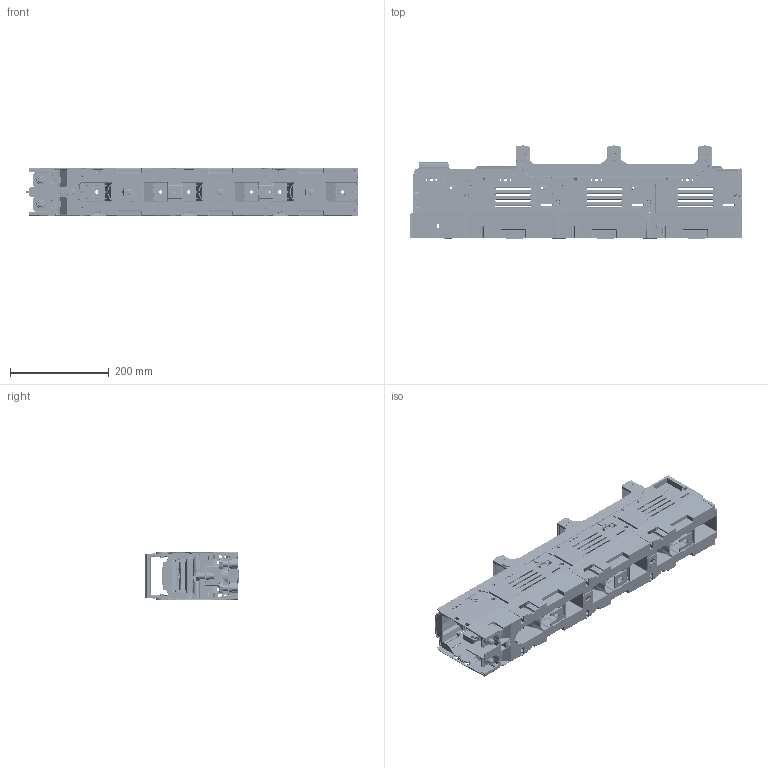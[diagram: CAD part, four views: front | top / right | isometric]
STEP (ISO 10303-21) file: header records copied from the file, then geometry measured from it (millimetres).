
FILE_DESCRIPTION (( 'STEP AP214' ), '1' );
FILE_NAME ('FSD123-33-LM.step', '2014-11-19T14:17:02', ( '' ), ( '' ), 'SwSTEP 2.0', 'SolidWorks 2011', '' );
FILE_SCHEMA (( 'AUTOMOTIVE_DESIGN' ));
Length unit declared in the file: millimetre
Products named in the file (1): FSD123-33-LM
Bounding box: 674 x 189 x 99 mm (x, y, z)
Volume: 1559128.2 mm3; surface area: 1302003.6 mm2
Topology: 31 solids, 31 shells, 11240 faces, 29705 edges, 18299 vertices
Faces by surface type: plane 4904, cylinder 3235, bspline 1364, cone 927, torus 495, sphere 315
Entity records: 498297 total; most frequent: CARTESIAN_POINT 113148, ORIENTED_EDGE 58806, DIRECTION 50293, EDGE_CURVE 29403, VERTEX_POINT 18299, LINE 17003, VECTOR 17003, AXIS2_PLACEMENT_3D 16645
